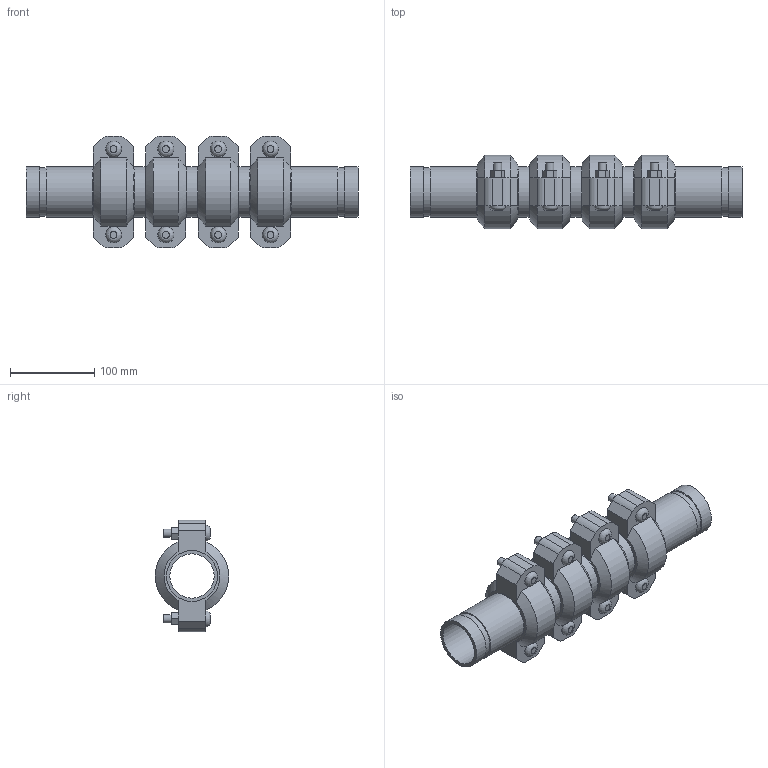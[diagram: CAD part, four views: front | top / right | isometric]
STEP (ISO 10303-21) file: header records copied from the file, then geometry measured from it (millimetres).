
FILE_DESCRIPTION(/* description */ ('VIC EXPANSION JOINT 4 COUPLINGS EXPANDED STYLE 155 (OGS)','CAx-IF Rec.Pracs.---Representation and Presentation of Product Manufacturing Information (PMI)---4.0---2014-10-13'),/* implementation_level */ '2;1');
FILE_NAME(/* name */ 'C:\Users\kkamble\AppData\Roaming\Autodesk\ApplicationPlugins\Victaulic.Temp\A310\Victaulic_IPS_Expansion Joint_Expanded_4 Couplings_Style 155 (OGS)_2 (50).stp',/* time_stamp */ '2021-06-27T00:00:13+02:00',/* author */ ('kkamble'),/* organization */ ('Victaulic'),/* preprocessor_version */ 'ST-DEVELOPER v17.2',/* originating_system */ 'Autodesk Inventor 2019',/* authorisation */ '');
FILE_SCHEMA (('AP242_MANAGED_MODEL_BASED_3D_ENGINEERING_MIM_LF { 1 0 10303 442 1 1 4 }'));
Length unit declared in the file: inch
Products named in the file (4): 155-02.0; Nipple-02.0; Nipple-02.0_1; 075-02.0
Assembly tree (9 placements, depth 2):
  155-02.0
    Nipple-02.0  x2
    Nipple-02.0_1  x3
    075-02.0  x4
Bounding box: 393.45 x 87.12 x 132.59 mm (x, y, z)
Volume: 1048667 mm3; surface area: 308628.9 mm2
Topology: 9 solids, 17 shells, 288 faces, 682 edges, 480 vertices
Faces by surface type: plane 174, cylinder 90, cone 16, bspline 8
Full cylindrical faces by diameter (mm): 9.525 x16, 11.43 x8, 52.502 x5, 53.975 x4, 57.15 x10, 60.325 x23
Entity records: 2785 total; most frequent: CARTESIAN_POINT 493, DIRECTION 461, ORIENTED_EDGE 386, EDGE_CURVE 193, AXIS2_PLACEMENT_3D 184, VERTEX_POINT 138, EDGE_LOOP 107, LINE 93
